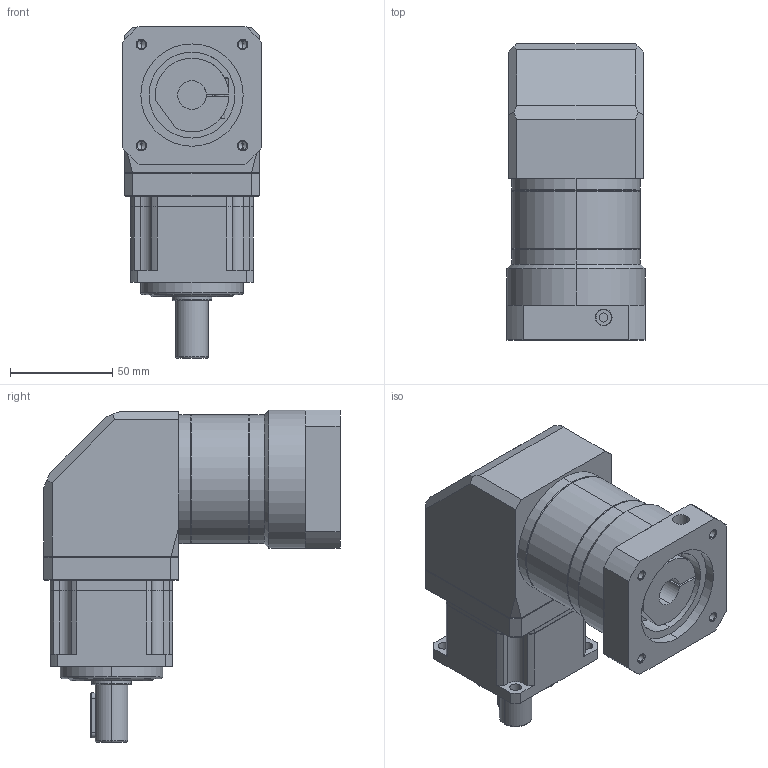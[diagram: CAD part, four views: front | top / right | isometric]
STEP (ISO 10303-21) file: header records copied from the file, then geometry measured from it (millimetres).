
FILE_DESCRIPTION(/* description */ (''),/* implementation_level */ '2;1');
FILE_NAME(/* name */ 'GBR060-_3-100_ 外形图-∅14x36.5-∅50x6-∅70xM5-□67.5_step.stp',/* time_stamp */ '2025-03-24T14:41:58+08:00',/* author */ (''),/* organization */ (''),/* preprocessor_version */ 'ST-DEVELOPER v18.102',/* originating_system */ 'SIEMENS PLM Software NX 2027',/* authorisation */ '');
FILE_SCHEMA (('AUTOMOTIVE_DESIGN { 1 0 10303 214 3 1 1 1 }'));
Length unit declared in the file: millimetre
Products named in the file (1): GBR060-_3-100_ 外形图-∅14x34-∅50x
6-∅70xM5-□65_step_objects
Bounding box: 67.5 x 144.75 x 162.25 mm (x, y, z)
Volume: 729734.4 mm3; surface area: 67716.1 mm2
Topology: 1 solids, 1 shells, 277 faces, 669 edges, 405 vertices
Faces by surface type: plane 133, cylinder 88, cone 47, torus 9
Entity records: 8065 total; most frequent: CARTESIAN_POINT 1497, DIRECTION 1417, ORIENTED_EDGE 1312, EDGE_CURVE 656, AXIS2_PLACEMENT_3D 508, VERTEX_POINT 404, LINE 401, VECTOR 401
